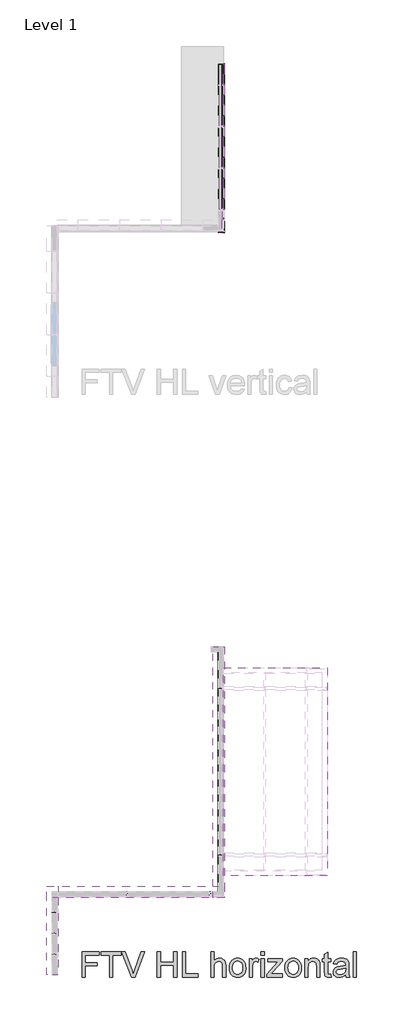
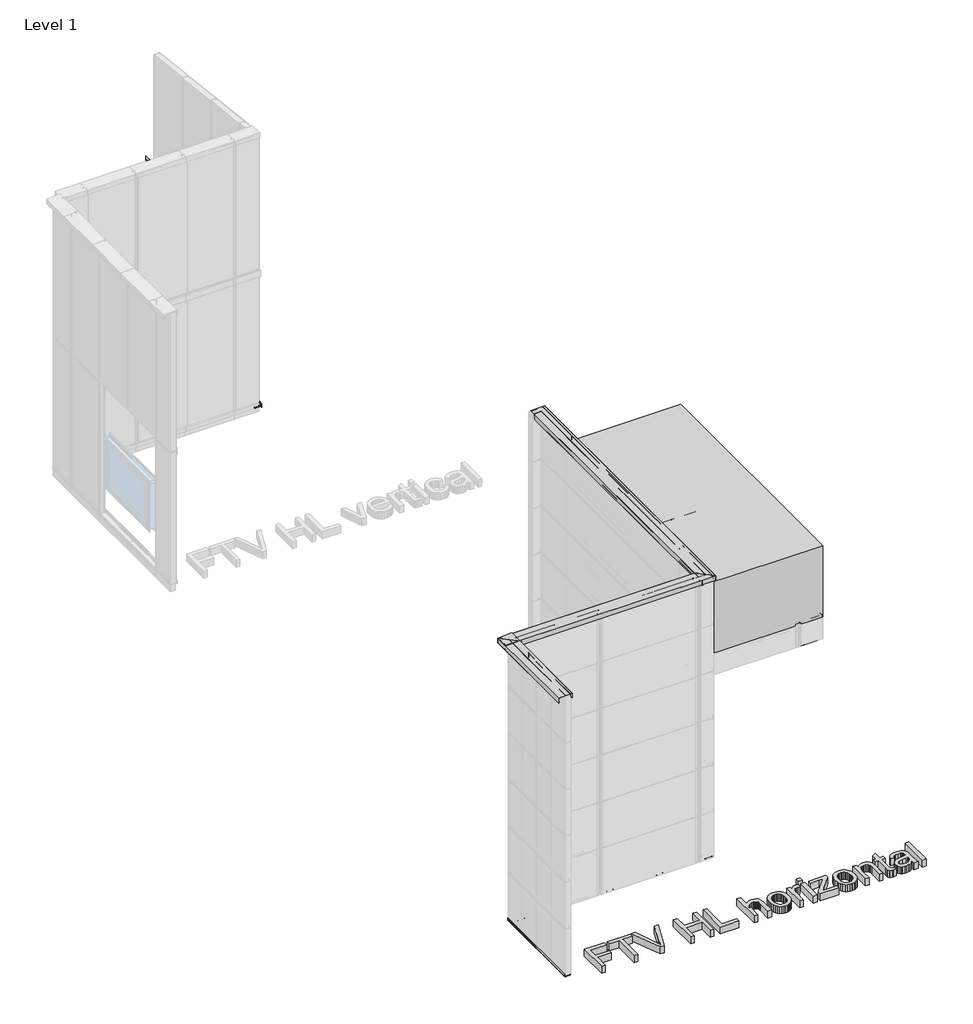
# One storey, part 11 of 12: 7 beams, 4 members, 2 plates, 2 proxies.
"""IFC4 building model written with IfcOpenShell, lengths in millimetres."""

from ifc_helpers import new_model, si_unit, frame, origin, origin_with_axes, place, context, project, spatial, polyline, outline, extrude, faceted_brep, transform, mapped, element, save
from components import base_detail_bd736647, base_detail_667776c5, base_detail_11f6d321, rectangular_mullion_43938598, rectangular_mullion_88eb2caa, tr_empty_empty_82193d3f, tr_empty_empty_37449267

model = new_model("IFC4")

# Units and contexts
model_context = context("Model", 3, world=origin())
ifc_project = project(units=[si_unit("LENGTHUNIT", "METRE", prefix="MILLI")], contexts=[model_context])

# Site, building, storey
site = spatial("IfcSite", under=ifc_project)
building = spatial("IfcBuilding", under=site)
storey = spatial("IfcBuildingStorey", under=building, Name="Level 1", Elevation=0.0)

# Beams
placement = place(None, origin())
element("IfcBeam", 1, ObjectType="TI-V-02_01_Base detail i_BEAM : Base detail", at=placement, inside=storey, context=model_context, shape_type="Brep", body=[
    faceted_brep([(-3975.4614678, 3917.4319119, 194.2952436), (-3992.4617623, 3916.9057806, 198.8199725), (-3992.1511795, 3916.7719023, 199.971326), (-3973.5155057, 3917.3486459, 195.0113313), (-3973.5155057, 3925.864222, 121.7773769), (-3990.5103325, 3923.9013049, 138.6584638), (-3991.0760179, 3923.9666421, 138.0965643), (-3972.7155057, 3926.087297, 119.8589319), (-3972.7155057, 3917.2777443, 195.6210845), (-3992.7168649, 3916.658735, 200.9445645), (-3993.4415582, 3916.9711178, 198.258073), (-3975.668523, 3917.5211641, 193.5276746), (-3975.4614678, 7963.7195842, 664.7938102), (-3975.668523, 7963.8088364, 664.0262412), (-3993.4415582, 7963.2587901, 668.7566396), (-3992.7168649, 7962.9464074, 671.4431311), (-3972.7155057, 7963.5654167, 666.1196511), (-3972.7155057, 7972.3749693, 590.3574985), (-3991.0760179, 7970.2543144, 608.5951308), (-3990.5103325, 7970.1889772, 609.1570303), (-3973.5155057, 7972.1518943, 592.2759434), (-3973.5155057, 7963.6363182, 665.5098978), (-3992.1511795, 7963.0595746, 670.4698926), (-3992.4617623, 7963.1934529, 669.3185391)], [[[0, 1, 2, 3, 4, 5, 6, 7, 8, 9, 10, 11]], [[12, 13, 14, 15, 16, 17, 18, 19, 20, 21, 22, 23]], [[1, 0, 12, 23]], [[2, 1, 23, 22]], [[3, 2, 22, 21]], [[4, 3, 21, 20]], [[5, 4, 20, 19]], [[6, 5, 19, 18]], [[7, 6, 18, 17]], [[8, 7, 17, 16]], [[9, 8, 16, 15]], [[10, 9, 15, 14]], [[11, 10, 14, 13]], [[0, 11, 13, 12]]]),
    faceted_brep([(-3973.5155057, 3949.0069121, 198.692525), (-3973.5155057, 7963.6363182, 665.5098978), (-3973.5155057, 7972.1518943, 592.2759434), (-3973.5155057, 3949.0069121, 124.4683873), (-3990.5103325, 7970.1889772, 609.1570303), (-3990.5103325, 3966.0017389, 143.5538631), (-3991.0760179, 3966.5674244, 143.0501436), (-3991.0760179, 7970.2543144, 608.5951308), (-3972.7155057, 7972.3749693, 590.3574985), (-3972.7155057, 3948.2069121, 122.4309802), (-3972.7155057, 7963.5654167, 666.1196511), (-3972.7155057, 3948.2069121, 199.2174994), (-3992.7168649, 7962.9464074, 671.4431311), (-3992.7168649, 3968.2082714, 206.9386966), (-3975.4614678, 7963.7195842, 664.7938102), (-3975.668523, 7963.8088364, 664.0262412), (-3993.4415582, 7963.2587901, 668.7566396), (-3992.1511795, 7963.0595746, 670.4698926), (-3992.4617623, 7963.1934529, 669.3185391), (-3975.668523, 3951.1599295, 197.439159), (-3975.4614678, 3950.9528743, 198.19303), (-3993.4415582, 3968.9329647, 204.3001482), (-3992.1511795, 3967.6425859, 205.8865218), (-3992.4617623, 3967.9531688, 204.7557153)], [[[0, 1, 2, 3]], [[3, 2, 4, 5]], [[6, 7, 8, 9]], [[9, 8, 10, 11]], [[11, 10, 12, 13]], [[14, 15, 16, 12, 10, 8, 7, 4, 2, 1, 17, 18]], [[19, 15, 14, 20]], [[21, 16, 15, 19]], [[13, 12, 16, 21]], [[5, 4, 7, 6]], [[22, 17, 1, 0]], [[23, 18, 17, 22]], [[20, 14, 18, 23]], [[20, 23, 22, 0, 3, 5, 6, 9, 11, 13, 21, 19]]]),
    faceted_brep([(-3992.5155057, 7963.3096563, 668.3191906), (-3976.5571648, 7963.8035408, 664.0717838), (-3976.76422, 7963.892793, 663.3042148), (-3991.7155057, 7963.4300752, 667.2835879), (-3991.7155057, 7969.0987083, 618.5333432), (-3974.7155057, 7969.0987083, 618.5333432), (-3974.7155057, 7971.8014284, 595.2899505), (-3975.5155057, 7971.8014284, 595.2899505), (-3975.5155057, 7969.191109, 617.7386973), (-3992.5155057, 7969.191109, 617.7386973), (-3992.5155057, 3917.0219839, 197.820624), (-3992.5155057, 3922.9034367, 147.2401307), (-3975.5155057, 3922.9034367, 147.2401307), (-3975.5155057, 3925.513756, 124.7913839), (-3974.7155057, 3925.513756, 124.7913839), (-3974.7155057, 3922.811036, 148.0347766), (-3991.7155057, 3922.811036, 148.0347766), (-3991.7155057, 3917.1424029, 196.7850213), (-3976.76422, 3917.6051207, 192.8056483), (-3976.5571648, 3917.5158684, 193.5732173)], [[[0, 1, 2, 3, 4, 5, 6, 7, 8, 9]], [[10, 11, 12, 13, 14, 15, 16, 17, 18, 19]], [[1, 0, 10, 19]], [[2, 1, 19, 18]], [[3, 2, 18, 17]], [[4, 3, 17, 16]], [[5, 4, 16, 15]], [[6, 5, 15, 14]], [[7, 6, 14, 13]], [[8, 7, 13, 12]], [[9, 8, 12, 11]], [[0, 9, 11, 10]]]),
    faceted_brep([(-3992.5155057, 7963.3096563, 668.3191906), (-3976.5571648, 7963.8035408, 664.0717838), (-3976.76422, 7963.892793, 663.3042148), (-3991.7155057, 7963.4300752, 667.2835879), (-3991.7155057, 7969.0987083, 618.5333432), (-3974.7155057, 7969.0987083, 618.5333432), (-3974.7155057, 7971.8014284, 595.2899505), (-3975.5155057, 7971.8014284, 595.2899505), (-3975.5155057, 7969.191109, 617.7386973), (-3992.5155057, 7969.191109, 617.7386973), (-3992.5155057, 3968.0069121, 203.7491041), (-3976.5571648, 3952.0485713, 197.5886479), (-3976.76422, 3952.2556265, 196.8347769), (-3991.7155057, 3967.2069121, 202.6064759), (-3991.7155057, 3967.2069121, 153.1970878), (-3974.7155057, 3950.2069121, 151.2203436), (-3974.7155057, 3950.2069121, 127.6626811), (-3975.5155057, 3951.0069121, 127.7557044), (-3975.5155057, 3951.0069121, 150.5079767), (-3992.5155057, 3968.0069121, 152.4847209)], [[[0, 1, 2, 3, 4, 5, 6, 7, 8, 9]], [[1, 0, 10, 11]], [[2, 1, 11, 12]], [[3, 2, 12, 13]], [[4, 3, 13, 14]], [[5, 4, 14, 15]], [[6, 5, 15, 16]], [[7, 6, 16, 17]], [[8, 7, 17, 18]], [[9, 8, 18, 19]], [[0, 9, 19, 10]], [[11, 10, 19, 18, 17, 16, 15, 14, 13, 12]]]),
    faceted_brep([(-3992.6274898, 7969.713442, 613.246633), (-3974.8326629, 7971.7687598, 595.5709002), (-3975.3983484, 7971.8340969, 595.0090007), (-3992.9588606, 7969.8058427, 612.4519871), (-4023.1931752, 7969.8058427, 612.4519871), (-4023.1931752, 7966.340817, 642.2512085), (-4024.3931752, 7966.340817, 642.2512085), (-4024.3931752, 7969.8058427, 612.4519871), (-4113.1470653, 7969.8058427, 612.4519871), (-4115.6275805, 7967.4724741, 632.5189569), (-4114.8335436, 7967.4612133, 632.6157999), (-4112.4392851, 7969.713442, 613.246633), (-4025.1931752, 7969.713442, 613.246633), (-4025.1931752, 7966.2484163, 643.0458544), (-4022.3931752, 7966.2484163, 643.0458544), (-4022.3931752, 7969.713442, 613.246633), (-3992.6274898, 3923.4257697, 142.7480665), (-4022.3931752, 3923.4257697, 142.7480665), (-4022.3931752, 3919.960744, 172.5472879), (-4025.1931752, 3919.960744, 172.5472879), (-4025.1931752, 3923.4257697, 142.7480665), (-4112.4392851, 3923.4257697, 142.7480665), (-4114.8335436, 3921.173541, 162.1172334), (-4115.6275805, 3921.1848018, 162.0203904), (-4113.1470653, 3923.5181704, 141.9534206), (-4024.3931752, 3923.5181704, 141.9534206), (-4024.3931752, 3920.0531446, 171.752642), (-4023.1931752, 3920.0531446, 171.752642), (-4023.1931752, 3923.5181704, 141.9534206), (-3992.9588606, 3923.5181704, 141.9534206), (-3975.3983484, 3925.5464246, 124.5104342), (-3974.8326629, 3925.4810875, 125.0723337)], [[[0, 1, 2, 3, 4, 5, 6, 7, 8, 9, 10, 11, 12, 13, 14, 15]], [[16, 17, 18, 19, 20, 21, 22, 23, 24, 25, 26, 27, 28, 29, 30, 31]], [[1, 0, 16, 31]], [[2, 1, 31, 30]], [[3, 2, 30, 29]], [[4, 3, 29, 28]], [[5, 4, 28, 27]], [[6, 5, 27, 26]], [[7, 6, 26, 25]], [[8, 7, 25, 24]], [[9, 8, 24, 23]], [[10, 9, 23, 22]], [[11, 10, 22, 21]], [[12, 11, 21, 20]], [[13, 12, 20, 19]], [[14, 13, 19, 18]], [[15, 14, 18, 17]], [[0, 15, 17, 16]]]),
    faceted_brep([(-3992.6274898, 7969.713442, 613.246633), (-3974.8326629, 7971.7687598, 595.5709002), (-3975.3983484, 7971.8340969, 595.0090007), (-3992.9588606, 7969.8058427, 612.4519871), (-4023.1931752, 7969.8058427, 612.4519871), (-4023.1931752, 7966.340817, 642.2512085), (-4024.3931752, 7966.340817, 642.2512085), (-4024.3931752, 7969.8058427, 612.4519871), (-4113.1470653, 7969.8058427, 612.4519871), (-4115.6275805, 7967.4724741, 632.5189569), (-4114.8335436, 7967.4612133, 632.6157999), (-4112.4392851, 7969.713442, 613.246633), (-4025.1931752, 7969.713442, 613.246633), (-4025.1931752, 7966.2484163, 643.0458544), (-4022.3931752, 7966.2484163, 643.0458544), (-4022.3931752, 7969.713442, 613.246633), (-3992.6274898, 3968.1188962, 147.9449417), (-3974.8326629, 3950.3240694, 127.9610525), (-3975.3983484, 3950.8897548, 127.457333), (-3992.9588606, 3968.4502671, 147.178083), (-4023.1931752, 3998.6845817, 150.693701), (-4023.1931752, 3998.6845817, 180.8958323), (-4024.3931752, 3999.8845817, 181.0353672), (-4024.3931752, 3999.8845817, 150.8332358), (-4113.1470653, 4088.6384718, 161.1534556), (-4115.6275805, 4091.118987, 181.7801794), (-4114.8335436, 4090.3249501, 181.7860019), (-4112.4392851, 4087.9306916, 161.8765458), (-4025.1931752, 4000.6845817, 151.7316493), (-4025.1931752, 4000.6845817, 181.9337806), (-4022.3931752, 3997.8845817, 181.6081992), (-4022.3931752, 3997.8845817, 151.4060679)], [[[0, 1, 2, 3, 4, 5, 6, 7, 8, 9, 10, 11, 12, 13, 14, 15]], [[1, 0, 16, 17]], [[2, 1, 17, 18]], [[3, 2, 18, 19]], [[4, 3, 19, 20]], [[5, 4, 20, 21]], [[6, 5, 21, 22]], [[7, 6, 22, 23]], [[8, 7, 23, 24]], [[9, 8, 24, 25]], [[10, 9, 25, 26]], [[11, 10, 26, 27]], [[12, 11, 27, 28]], [[13, 12, 28, 29]], [[14, 13, 29, 30]], [[15, 14, 30, 31]], [[0, 15, 31, 16]], [[17, 16, 31, 30, 29, 28, 27, 26, 25, 24, 23, 22, 21, 20, 19, 18]]]),
])
base_detail_shape = base_detail_bd736647(model_context)
element("IfcBeam", 2, ObjectType="TI-H-AI1_1_Base detail_BEAM : Base detail", at=placement, inside=storey, context=model_context, shape_type="MappedRepresentation", body=[
    mapped(base_detail_shape, transform((-3994.1155057, -9030.3930879, 150.0), x_axis=(0.0, -1.0, 0.0), y_axis=(1.0, 0.0, 0.0), z_axis=(0.0, 0.0, 1.0))),
])
base_detail_2_shape = base_detail_667776c5(model_context)
element("IfcBeam", 3, ObjectType="TI-H-AI1_1_Base detail_BEAM : Base detail", at=placement, inside=storey, context=model_context, shape_type="MappedRepresentation", body=[
    mapped(base_detail_2_shape, transform((-5989.1155057, -12030.3930879, 150.0), x_axis=(-1.0, 0.0, 0.0), y_axis=(0.0, -1.0, 0.0), z_axis=(0.0, 0.0, 1.0))),
])
base_detail_3_shape = base_detail_11f6d321(model_context)
element("IfcBeam", 4, ObjectType="TI-H-AI1_1_Base detail_BEAM : Base detail", at=placement, inside=storey, context=model_context, shape_type="MappedRepresentation", body=[
    mapped(base_detail_3_shape, transform((-7984.1155057, -12970.7930879, 150.0), x_axis=(0.0, -1.0, 0.0), y_axis=(1.0, 0.0, 0.0), z_axis=(0.0, 0.0, 1.0))),
])
element("IfcBeam", 5, ObjectType="TE-H-03_02_Top parapet_BEAM : Top parapet", at=placement, inside=storey, context=model_context, shape_type="Brep", body=[
    faceted_brep([(-7978.5103325, -11776.9930879, 6102.9605122), (-7961.5155057, -11776.9930879, 6085.9656854), (-7961.5155057, -11776.9930879, 6184.5784879), (-8236.7155057, -11776.9930879, 6170.1558671), (-8236.7155057, -11776.9930879, 6071.5011383), (-8219.7206788, -11776.9930879, 6088.4959652), (-8219.1549934, -11776.9930879, 6087.9302797), (-8237.5155057, -11776.9930879, 6069.5697675), (-8237.5155057, -11776.9930879, 6170.9150387), (-7960.7155057, -11776.9930879, 6185.4215121), (-7960.7155057, -11776.9930879, 6084.0343146), (-7979.0760179, -11776.9930879, 6102.3948268), (-7978.5103325, -13911.1930879, 6102.9605122), (-7979.0760179, -13911.1930879, 6102.3948268), (-7960.7155057, -13911.1930879, 6084.0343146), (-7960.7155057, -13911.1930879, 6185.4215121), (-8237.5155057, -13911.1930879, 6170.9150387), (-8237.5155057, -13911.1930879, 6069.5697675), (-8219.1549934, -13911.1930879, 6087.9302797), (-8219.7206788, -13911.1930879, 6088.4959652), (-8236.7155057, -13911.1930879, 6071.5011383), (-8236.7155057, -13911.1930879, 6170.1558671), (-7961.5155057, -13911.1930879, 6184.5784879), (-7961.5155057, -13911.1930879, 6085.9656854)], [[[0, 1, 2, 3, 4, 5, 6, 7, 8, 9, 10, 11]], [[12, 13, 14, 15, 16, 17, 18, 19, 20, 21, 22, 23]], [[1, 0, 12, 23]], [[2, 1, 23, 22]], [[3, 2, 22, 21]], [[4, 3, 21, 20]], [[5, 4, 20, 19]], [[6, 5, 19, 18]], [[7, 6, 18, 17]], [[8, 7, 17, 16]], [[9, 8, 16, 15]], [[10, 9, 15, 14]], [[11, 10, 14, 13]], [[0, 11, 13, 12]]]),
    faceted_brep([(-7978.5103325, -13911.1930879, 6102.9605122), (-7979.0760179, -13911.1930879, 6102.3948268), (-7960.7155057, -13911.1930879, 6084.0343146), (-7960.7155057, -13911.1930879, 6185.4215121), (-8237.5155057, -13911.1930879, 6170.9150387), (-8237.5155057, -13911.1930879, 6069.5697675), (-8219.1549934, -13911.1930879, 6087.9302797), (-8219.7206788, -13911.1930879, 6088.4959652), (-8236.7155057, -13911.1930879, 6071.5011383), (-8236.7155057, -13911.1930879, 6170.1558671), (-7961.5155057, -13911.1930879, 6184.5784879), (-7961.5155057, -13911.1930879, 6085.9656854), (-7979.0760179, -12035.4325756, 6102.3948268), (-7978.5103325, -12035.9982611, 6102.9605122), (-7960.7155057, -12053.7930879, 6084.0343146), (-7960.7155057, -12053.7930879, 6185.4215121), (-8237.5155057, -11776.9930879, 6170.9150387), (-8237.5155057, -11776.9930879, 6069.5697675), (-8219.1549934, -11795.3536001, 6087.9302797), (-8219.7206788, -11794.7879147, 6088.4959652), (-8236.7155057, -11777.7930879, 6071.5011383), (-8236.7155057, -11777.7930879, 6170.1558671), (-7961.5155057, -12052.9930879, 6184.5784879), (-7961.5155057, -12052.9930879, 6085.9656854)], [[[0, 1, 2, 3, 4, 5, 6, 7, 8, 9, 10, 11]], [[12, 1, 0, 13]], [[14, 2, 1, 12]], [[15, 3, 2, 14]], [[16, 4, 3, 15]], [[17, 5, 4, 16]], [[18, 6, 5, 17]], [[19, 7, 6, 18]], [[20, 8, 7, 19]], [[21, 9, 8, 20]], [[22, 10, 9, 21]], [[23, 11, 10, 22]], [[13, 0, 11, 23]], [[13, 23, 22, 21, 20, 19, 18, 17, 16, 15, 14, 12]]]),
])
element("IfcBeam", 6, ObjectType="TE-H-03_02_Top parapet_BEAM : Top parapet", at=placement, inside=storey, context=model_context, shape_type="Brep", body=[
    faceted_brep([(-3988.5103325, -6030.3930879, 6102.9605122), (-3971.5155057, -6030.3930879, 6085.9656854), (-3971.5155057, -6030.3930879, 6184.5784879), (-4246.7155057, -6030.3930879, 6170.1558671), (-4246.7155057, -6030.3930879, 6071.5011383), (-4229.7206788, -6030.3930879, 6088.4959652), (-4229.1549934, -6030.3930879, 6087.9302797), (-4247.5155057, -6030.3930879, 6069.5697675), (-4247.5155057, -6030.3930879, 6170.9150387), (-3970.7155057, -6030.3930879, 6185.4215121), (-3970.7155057, -6030.3930879, 6084.0343146), (-3989.0760179, -6030.3930879, 6102.3948268), (-3988.5103325, -12053.3930879, 6102.9605122), (-3989.0760179, -12053.3930879, 6102.3948268), (-3970.7155057, -12053.3930879, 6084.0343146), (-3970.7155057, -12053.3930879, 6185.4215121), (-4247.5155057, -12053.3930879, 6170.9150387), (-4247.5155057, -12053.3930879, 6069.5697675), (-4229.1549934, -12053.3930879, 6087.9302797), (-4229.7206788, -12053.3930879, 6088.4959652), (-4246.7155057, -12053.3930879, 6071.5011383), (-4246.7155057, -12053.3930879, 6170.1558671), (-3971.5155057, -12053.3930879, 6184.5784879), (-3971.5155057, -12053.3930879, 6085.9656854)], [[[0, 1, 2, 3, 4, 5, 6, 7, 8, 9, 10, 11]], [[12, 13, 14, 15, 16, 17, 18, 19, 20, 21, 22, 23]], [[1, 0, 12, 23]], [[2, 1, 23, 22]], [[3, 2, 22, 21]], [[4, 3, 21, 20]], [[5, 4, 20, 19]], [[6, 5, 19, 18]], [[7, 6, 18, 17]], [[8, 7, 17, 16]], [[9, 8, 16, 15]], [[10, 9, 15, 14]], [[11, 10, 14, 13]], [[0, 11, 13, 12]]]),
    faceted_brep([(-3988.5103325, -6030.3930879, 6102.9605122), (-3971.5155057, -6030.3930879, 6085.9656854), (-3971.5155057, -6030.3930879, 6184.5784879), (-4246.7155057, -6030.3930879, 6170.1558671), (-4246.7155057, -6030.3930879, 6071.5011383), (-4229.7206788, -6030.3930879, 6088.4959652), (-4229.1549934, -6030.3930879, 6087.9302797), (-4247.5155057, -6030.3930879, 6069.5697675), (-4247.5155057, -6030.3930879, 6170.9150387), (-3970.7155057, -6030.3930879, 6185.4215121), (-3970.7155057, -6030.3930879, 6084.0343146), (-3989.0760179, -6030.3930879, 6102.3948268), (-3988.5103325, -12035.9982611, 6102.9605122), (-3971.5155057, -12052.9930879, 6085.9656854), (-3971.5155057, -12052.9930879, 6184.5784879), (-4246.7155057, -11777.7930879, 6170.1558671), (-4246.7155057, -11777.7930879, 6071.5011383), (-4229.7206788, -11794.7879147, 6088.4959652), (-4229.1549934, -11795.3536001, 6087.9302797), (-4247.5155057, -11776.9930879, 6069.5697675), (-4247.5155057, -11776.9930879, 6170.9150387), (-3971.1155057, -12053.3930879, 6185.4005489), (-3970.7155057, -12053.3930879, 6185.4215121), (-3970.7155057, -12053.3930879, 6084.0343146), (-3971.1155057, -12053.3930879, 6084.4343146), (-3989.0760179, -12035.4325756, 6102.3948268)], [[[0, 1, 2, 3, 4, 5, 6, 7, 8, 9, 10, 11]], [[1, 0, 12, 13]], [[2, 1, 13, 14]], [[3, 2, 14, 15]], [[4, 3, 15, 16]], [[5, 4, 16, 17]], [[6, 5, 17, 18]], [[7, 6, 18, 19]], [[8, 7, 19, 20]], [[9, 8, 20, 21, 22]], [[10, 9, 22, 23]], [[11, 10, 23, 24, 25]], [[0, 11, 25, 12]], [[24, 23, 22, 21]], [[24, 21, 20, 19, 18, 17, 16, 15, 14, 13, 12, 25]]]),
])
element("IfcBeam", 7, ObjectType="TE-H-03_02_Top parapet_BEAM : Top parapet", at=placement, inside=storey, context=model_context, shape_type="Brep", body=[
    faceted_brep([(-3970.7155057, -12035.9982611, 6102.9605122), (-3970.7155057, -12052.9930879, 6085.9656854), (-3970.7155057, -12052.9930879, 6184.5784879), (-3970.7155057, -11777.7930879, 6170.1558671), (-3970.7155057, -11777.7930879, 6071.5011383), (-3970.7155057, -11794.7879147, 6088.4959652), (-3970.7155057, -11795.3536001, 6087.9302797), (-3970.7155057, -11776.9930879, 6069.5697675), (-3970.7155057, -11776.9930879, 6170.9150387), (-3970.7155057, -12053.7930879, 6185.4215121), (-3970.7155057, -12053.7930879, 6084.0343146), (-3970.7155057, -12035.4325756, 6102.3948268), (-8237.5155057, -12035.9982611, 6102.9605122), (-8237.5155057, -12035.4325756, 6102.3948268), (-8237.5155057, -12053.7930879, 6084.0343146), (-8237.5155057, -12053.7930879, 6185.4215121), (-8237.5155057, -11776.9930879, 6170.9150387), (-8237.5155057, -11776.9930879, 6069.5697675), (-8237.5155057, -11795.3536001, 6087.9302797), (-8237.5155057, -11794.7879147, 6088.4959652), (-8237.5155057, -11777.7930879, 6071.5011383), (-8237.5155057, -11777.7930879, 6170.1558671), (-8237.5155057, -12052.9930879, 6184.5784879), (-8237.5155057, -12052.9930879, 6085.9656854)], [[[0, 1, 2, 3, 4, 5, 6, 7, 8, 9, 10, 11]], [[12, 13, 14, 15, 16, 17, 18, 19, 20, 21, 22, 23]], [[1, 0, 12, 23]], [[2, 1, 23, 22]], [[3, 2, 22, 21]], [[4, 3, 21, 20]], [[5, 4, 20, 19]], [[6, 5, 19, 18]], [[7, 6, 18, 17]], [[8, 7, 17, 16]], [[9, 8, 16, 15]], [[10, 9, 15, 14]], [[11, 10, 14, 13]], [[0, 11, 13, 12]]]),
    faceted_brep([(-3970.7155057, -12035.9982611, 6102.9605122), (-3970.7155057, -12052.9930879, 6085.9656854), (-3970.7155057, -12052.9930879, 6184.5784879), (-3970.7155057, -11777.7930879, 6170.1558671), (-3970.7155057, -11777.7930879, 6071.5011383), (-3970.7155057, -11794.7879147, 6088.4959652), (-3970.7155057, -11795.3536001, 6087.9302797), (-3970.7155057, -11776.9930879, 6069.5697675), (-3970.7155057, -11776.9930879, 6170.9150387), (-3970.7155057, -12053.7930879, 6185.4215121), (-3970.7155057, -12053.7930879, 6084.0343146), (-3970.7155057, -12035.4325756, 6102.3948268), (-7978.5103325, -12035.9982611, 6102.9605122), (-7961.5155057, -12052.9930879, 6085.9656854), (-7961.5155057, -12052.9930879, 6184.5784879), (-8236.7155057, -11777.7930879, 6170.1558671), (-8236.7155057, -11777.7930879, 6071.5011383), (-8219.7206788, -11794.7879147, 6088.4959652), (-8219.1549934, -11795.3536001, 6087.9302797), (-8237.5155057, -11776.9930879, 6069.5697675), (-8237.5155057, -11776.9930879, 6170.9150387), (-7960.7155057, -12053.7930879, 6185.4215121), (-7960.7155057, -12053.7930879, 6084.0343146), (-7979.0760179, -12035.4325756, 6102.3948268)], [[[0, 1, 2, 3, 4, 5, 6, 7, 8, 9, 10, 11]], [[1, 0, 12, 13]], [[2, 1, 13, 14]], [[3, 2, 14, 15]], [[4, 3, 15, 16]], [[5, 4, 16, 17]], [[6, 5, 17, 18]], [[7, 6, 18, 19]], [[8, 7, 19, 20]], [[9, 8, 20, 21]], [[10, 9, 21, 22]], [[11, 10, 22, 23]], [[0, 11, 23, 12]], [[13, 12, 23, 22, 21, 20, 19, 18, 17, 16, 15, 14]]]),
    faceted_brep([(-3988.5103325, -12035.9982611, 6102.9605122), (-7978.5103325, -12035.9982611, 6102.9605122), (-7961.5155057, -12052.9930879, 6085.9656854), (-3971.5155057, -12052.9930879, 6085.9656854), (-3989.0760179, -12035.4325756, 6102.3948268), (-7979.0760179, -12035.4325756, 6102.3948268), (-7961.5155057, -12052.9930879, 6184.5784879), (-3971.5155057, -12052.9930879, 6184.5784879), (-8236.7155057, -11777.7930879, 6170.1558671), (-4246.7155057, -11777.7930879, 6170.1558671), (-8236.7155057, -11777.7930879, 6071.5011383), (-4246.7155057, -11777.7930879, 6071.5011383), (-8219.7206788, -11794.7879147, 6088.4959652), (-4229.7206788, -11794.7879147, 6088.4959652), (-8219.1549934, -11795.3536001, 6087.9302797), (-4229.1549934, -11795.3536001, 6087.9302797), (-8237.5155057, -11776.9930879, 6069.5697675), (-4247.5155057, -11776.9930879, 6069.5697675), (-8237.5155057, -11776.9930879, 6170.9150387), (-4247.5155057, -11776.9930879, 6170.9150387), (-7960.7155057, -12053.7930879, 6185.4215121), (-3970.7155057, -12053.7930879, 6185.4215121), (-7960.7155057, -12053.7930879, 6084.0343146), (-3970.7155057, -12053.7930879, 6084.0343146)], [[[0, 1, 2, 3]], [[4, 5, 1, 0]], [[3, 2, 6, 7]], [[7, 6, 8, 9]], [[9, 8, 10, 11]], [[11, 10, 12, 13]], [[13, 12, 14, 15]], [[15, 14, 16, 17]], [[17, 16, 18, 19]], [[19, 18, 20, 21]], [[21, 20, 22, 23]], [[23, 22, 5, 4]], [[2, 1, 5, 22, 20, 18, 16, 14, 12, 10, 8, 6]], [[0, 3, 7, 9, 11, 13, 15, 17, 19, 21, 23, 4]]]),
])

# Proxies
element("IfcBuildingElementProxy", 8, Name="600mm Arial", ObjectType="600mm Arial", at=placement, inside=storey, context=model_context, shape_type="SweptSolid", body=[
    extrude(outline(polyline([(-7390.6707281, -13959.8952349), (-7390.6707281, -13357.157374), (-6985.7062278, -13357.157374), (-6985.7062278, -13432.4996066), (-7315.3284955, -13432.4996066), (-7315.3284955, -13611.437409), (-7032.7951232, -13611.437409), (-7032.7951232, -13686.7796417), (-7315.3284955, -13686.7796417), (-7315.3284955, -13959.8952349), (-7390.6707281, -13959.8952349)])), origin_with_axes(), (0.0, 0.0, 1.0), 150.0),
    extrude(outline(polyline([(-6731.4261928, -13959.8952349), (-6731.4261928, -13432.4996066), (-6929.1995534, -13432.4996066), (-6929.1995534, -13357.157374), (-6458.3105995, -13357.157374), (-6458.3105995, -13432.4996066), (-6656.0839602, -13432.4996066), (-6656.0839602, -13959.8952349), (-6731.4261928, -13959.8952349)])), origin_with_axes(), (0.0, 0.0, 1.0), 150.0),
    extrude(outline(polyline([(-6195.4957022, -13959.8952349), (-6435.354763, -13357.157374), (-6354.7150297, -13357.157374), (-6194.171327, -13791.4052811), (-6161.6505586, -13889.2618918), (-6129.5712487, -13791.4052811), (-5968.5860876, -13357.157374), (-5887.9463542, -13357.157374), (-6117.651872, -13959.8952349), (-6195.4957022, -13959.8952349)])), origin_with_axes(), (0.0, 0.0, 1.0), 150.0),
    extrude(outline(polyline([(-5582.4571454, -13959.8952349), (-5582.4571454, -13357.157374), (-5507.1149128, -13357.157374), (-5507.1149128, -13602.01963), (-5186.9104242, -13602.01963), (-5186.9104242, -13357.157374), (-5111.5681916, -13357.157374), (-5111.5681916, -13959.8952349), (-5186.9104242, -13959.8952349), (-5186.9104242, -13677.3618626), (-5507.1149128, -13677.3618626), (-5507.1149128, -13959.8952349), (-5582.4571454, -13959.8952349)])), origin_with_axes(), (0.0, 0.0, 1.0), 150.0),
    extrude(outline(polyline([(-4979.7192845, -13959.8952349), (-4979.7192845, -13357.157374), (-4904.3770519, -13357.157374), (-4904.3770519, -13884.5530023), (-4603.0081215, -13884.5530023), (-4603.0081215, -13959.8952349), (-4979.7192845, -13959.8952349)])), origin_with_axes(), (0.0, 0.0, 1.0), 150.0),
    extrude(outline(polyline([(-4292.2214119, -13959.8952349), (-4292.2214119, -13357.157374), (-4216.8791793, -13357.157374), (-4216.8791793, -13578.7694879), (-4189.2052562, -13547.7386416), (-4158.1284247, -13525.5737514), (-4123.6486847, -13512.2748172), (-4085.7660362, -13507.8418392), (-4040.2590334, -13512.6794874), (-4001.1531774, -13527.1924322), (-3970.3614544, -13550.2402392), (-3949.7968508, -13580.6824743), (-3938.208568, -13622.5106571), (-3934.345807, -13679.7163074), (-3934.345807, -13959.8952349), (-4009.6880396, -13959.8952349), (-4009.6880396, -13687.5154057), (-4011.1871588, -13662.0763657), (-4015.6845162, -13640.3529339), (-4023.1801118, -13622.3451102), (-4033.6739457, -13608.0528947), (-4046.9176976, -13597.1727847), (-4062.663047, -13589.4012775), (-4080.9099939, -13584.7383732), (-4101.6585384, -13583.1840718), (-4133.4987251, -13587.3779266), (-4163.3891372, -13599.9594908), (-4188.1475955, -13619.7147539), (-4204.5919207, -13645.4297054), (-4213.8073647, -13679.6059428), (-4216.8791793, -13724.7450636), (-4216.8791793, -13959.8952349), (-4292.2214119, -13959.8952349)])), origin_with_axes(), (0.0, 0.0, 1.0), 150.0),
    extrude(outline(polyline([(-3849.5857953, -13738.5774266), (-3845.5115022, -13681.2522147), (-3833.288623, -13631.8548598), (-3812.9171575, -13590.3853619), (-3784.3971058, -13556.843721), (-3755.6839161, -13535.4053977), (-3723.9908822, -13520.0923096), (-3689.3180041, -13510.9044568), (-3651.6652819, -13507.8418392), (-3610.099215, -13511.5712429), (-3572.5154707, -13522.7594541), (-3538.9140489, -13541.4064727), (-3509.2949498, -13567.5122988), (-3485.1205042, -13600.1940156), (-3467.8530431, -13638.5687062), (-3457.4925664, -13682.6363707), (-3454.0390741, -13732.3970091), (-3455.5657844, -13772.7260728), (-3460.1459153, -13808.5117939), (-3467.7794667, -13839.7541723), (-3478.4664386, -13866.4532081), (-3492.0734739, -13889.5148107), (-3508.4672153, -13909.8448894), (-3527.6476628, -13927.4434444), (-3549.6148165, -13942.3104755), (-3573.5133506, -13954.1240861), (-3598.4879395, -13962.5623793), (-3624.5385833, -13967.6253553), (-3651.6652819, -13969.313014), (-3693.8383542, -13965.5974058), (-3731.7715864, -13954.4505814), (-3765.4649786, -13935.8725406), (-3794.9185309, -13909.8632835), (-3818.8354591, -13876.8642686), (-3835.9189792, -13837.3169541), (-3846.1690913, -13791.2213401), (-3849.5857953, -13738.5774266)]), holes=[polyline([(-3774.2435627, -13738.4302738), (-3772.0638619, -13774.9747515), (-3765.5247594, -13806.6172016), (-3754.6262553, -13833.3576241), (-3739.3683496, -13855.1960191), (-3720.8087029, -13872.1599776), (-3700.0049761, -13884.2770908), (-3676.9571691, -13891.5473587), (-3651.6652819, -13893.9707813), (-3626.5021535, -13891.5335631), (-3603.546317, -13884.2219085), (-3582.7977724, -13872.0358174), (-3564.2565199, -13854.9752899), (-3548.9986141, -13832.9207642), (-3538.10011, -13805.7526789), (-3531.5610076, -13773.4710338), (-3529.3813067, -13736.075829), (-3531.5748031, -13700.6901796), (-3538.1552923, -13669.875464), (-3549.1227743, -13643.6316822), (-3564.4772491, -13621.9588341), (-3583.0874795, -13604.9948756), (-3603.8222285, -13592.8777624), (-3626.6814959, -13585.6074945), (-3651.6652819, -13583.1840718), (-3676.9571691, -13585.5982974), (-3700.0049761, -13592.8409742), (-3720.8087029, -13604.9121022), (-3739.3683496, -13621.8116813), (-3754.6262553, -13643.5856969), (-3765.5247594, -13670.2801342), (-3772.0638619, -13701.8949931), (-3774.2435627, -13738.4302738)])]), origin_with_axes(), (0.0, 0.0, 1.0), 150.0),
    extrude(outline(polyline([(-3369.2790624, -13959.8952349), (-3369.2790624, -13517.2596183), (-3303.3546089, -13517.2596183), (-3303.3546089, -13582.7426134), (-3279.0008208, -13544.7771915), (-3256.5600191, -13522.4099662), (-3234.045641, -13511.483871), (-3209.4711237, -13507.8418392), (-3171.9471602, -13513.6543747), (-3133.8345855, -13531.0919813), (-3158.997714, -13598.6351156), (-3185.4852177, -13587.0468328), (-3211.9727213, -13583.1840718), (-3234.4687053, -13586.89968), (-3254.5734563, -13598.0465044), (-3270.8154464, -13615.7784166), (-3281.7231476, -13639.2492879), (-3290.8834093, -13681.3349881), (-3293.9368298, -13727.2466611), (-3293.9368298, -13959.8952349), (-3369.2790624, -13959.8952349)])), origin_with_axes(), (0.0, 0.0, 1.0), 150.0),
    extrude(outline(polyline([(-3086.7456901, -13432.4996066), (-3086.7456901, -13357.157374), (-3011.4034575, -13357.157374), (-3011.4034575, -13432.4996066), (-3086.7456901, -13432.4996066)])), origin_with_axes(), (0.0, 0.0, 1.0), 150.0),
    extrude(outline(polyline([(-3086.7456901, -13959.8952349), (-3086.7456901, -13517.2596183), (-3011.4034575, -13517.2596183), (-3011.4034575, -13959.8952349), (-3086.7456901, -13959.8952349)])), origin_with_axes(), (0.0, 0.0, 1.0), 150.0),
    extrude(outline(polyline([(-2945.479004, -13959.8952349), (-2945.479004, -13888.9675862), (-2685.4600098, -13592.6018509), (-2762.4209232, -13592.6018509), (-2926.6434458, -13592.6018509), (-2926.6434458, -13517.2596183), (-2578.18562, -13517.2596183), (-2578.18562, -13581.2710854), (-2808.7740546, -13844.2331356), (-2844.0907261, -13884.5530023), (-2756.9762697, -13884.5530023), (-2568.7678409, -13884.5530023), (-2568.7678409, -13959.8952349), (-2945.479004, -13959.8952349)])), origin_with_axes(), (0.0, 0.0, 1.0), 150.0),
    extrude(outline(polyline([(-2512.2611665, -13738.5774266), (-2508.1868734, -13681.2522147), (-2495.9639941, -13631.8548598), (-2475.5925286, -13590.3853619), (-2447.0724769, -13556.843721), (-2418.3592872, -13535.4053977), (-2386.6662533, -13520.0923096), (-2351.9933753, -13510.9044568), (-2314.3406531, -13507.8418392), (-2272.7745861, -13511.5712429), (-2235.1908418, -13522.7594541), (-2201.5894201, -13541.4064727), (-2171.9703209, -13567.5122988), (-2147.7958753, -13600.1940156), (-2130.5284142, -13638.5687062), (-2120.1679375, -13682.6363707), (-2116.7144453, -13732.3970091), (-2118.2411555, -13772.7260728), (-2122.8212864, -13808.5117939), (-2130.4548378, -13839.7541723), (-2141.1418097, -13866.4532081), (-2154.748845, -13889.5148107), (-2171.1425865, -13909.8448894), (-2190.323034, -13927.4434444), (-2212.2901876, -13942.3104755), (-2236.1887217, -13954.1240861), (-2261.1633107, -13962.5623793), (-2287.2139545, -13967.6253553), (-2314.3406531, -13969.313014), (-2356.5137253, -13965.5974058), (-2394.4469575, -13954.4505814), (-2428.1403498, -13935.8725406), (-2457.593902, -13909.8632835), (-2481.5108302, -13876.8642686), (-2498.5943504, -13837.3169541), (-2508.8444624, -13791.2213401), (-2512.2611665, -13738.5774266)]), holes=[polyline([(-2436.9189339, -13738.4302738), (-2434.739233, -13774.9747515), (-2428.2001306, -13806.6172016), (-2417.3016265, -13833.3576241), (-2402.0437207, -13855.1960191), (-2383.4840741, -13872.1599776), (-2362.6803472, -13884.2770908), (-2339.6325402, -13891.5473587), (-2314.3406531, -13893.9707813), (-2289.1775246, -13891.5335631), (-2266.2216881, -13884.2219085), (-2245.4731436, -13872.0358174), (-2226.931891, -13854.9752899), (-2211.6739853, -13832.9207642), (-2200.7754812, -13805.7526789), (-2194.2363787, -13773.4710338), (-2192.0566779, -13736.075829), (-2194.2501743, -13700.6901796), (-2200.8306635, -13669.875464), (-2211.7981454, -13643.6316822), (-2227.1526202, -13621.9588341), (-2245.7628506, -13604.9948756), (-2266.4975996, -13592.8777624), (-2289.3568671, -13585.6074945), (-2314.3406531, -13583.1840718), (-2339.6325402, -13585.5982974), (-2362.6803472, -13592.8409742), (-2383.4840741, -13604.9121022), (-2402.0437207, -13621.8116813), (-2417.3016265, -13643.5856969), (-2428.2001306, -13670.2801342), (-2434.739233, -13701.8949931), (-2436.9189339, -13738.4302738)])]), origin_with_axes(), (0.0, 0.0, 1.0), 150.0),
    extrude(outline(polyline([(-2031.9544336, -13959.8952349), (-2031.9544336, -13517.2596183), (-1956.612201, -13517.2596183), (-1956.612201, -13579.0637935), (-1930.437397, -13547.9041885), (-1899.0018805, -13525.6473278), (-1862.3056515, -13512.2932113), (-1820.34871, -13507.8418392), (-1783.2110225, -13511.4286887), (-1749.2003321, -13522.189237), (-1720.8366303, -13538.780715), (-1700.6399087, -13559.8603533), (-1686.9363044, -13585.3729697), (-1678.0519542, -13615.2633818), (-1674.0788287, -13688.1040168), (-1674.0788287, -13959.8952349), (-1749.4210613, -13959.8952349), (-1749.4210613, -13698.2575599), (-1751.5915651, -13659.2988566), (-1758.1030764, -13631.5973424), (-1770.1144235, -13611.7501087), (-1788.7844348, -13596.3542472), (-1812.7151586, -13586.4766157), (-1840.5086433, -13583.1840718), (-1863.3863049, -13585.0326788), (-1884.6360886, -13590.5784999), (-1904.2579945, -13599.8215351), (-1922.2520226, -13612.7617842), (-1937.2846006, -13630.8707754), (-1948.0221564, -13655.6200367), (-1954.4646898, -13687.0095679), (-1956.612201, -13725.0393692), (-1956.612201, -13959.8952349), (-2031.9544336, -13959.8952349)])), origin_with_axes(), (0.0, 0.0, 1.0), 150.0),
    extrude(outline(polyline([(-1410.3810145, -13897.0609901), (-1400.9632354, -13962.1025269), (-1457.3227571, -13969.313014), (-1493.4855572, -13966.186017), (-1520.4513075, -13956.8050261), (-1539.5075948, -13942.3472637), (-1551.9420063, -13923.9899522), (-1558.7846114, -13892.4624652), (-1561.0654798, -13838.4941765), (-1561.0654798, -13592.6018509), (-1617.5721542, -13592.6018509), (-1617.5721542, -13517.2596183), (-1561.0654798, -13517.2596183), (-1561.0654798, -13409.6909229), (-1485.7232471, -13365.3979307), (-1485.7232471, -13517.2596183), (-1410.3810145, -13517.2596183), (-1410.3810145, -13592.6018509), (-1485.7232471, -13592.6018509), (-1485.7232471, -13836.2868845), (-1481.7501216, -13875.1352232), (-1468.8742518, -13888.8940098), (-1458.0033388, -13892.7015885), (-1443.1960885, -13893.9707813), (-1410.3810145, -13897.0609901)])), origin_with_axes(), (0.0, 0.0, 1.0), 150.0),
    extrude(outline(polyline([(-1052.5054096, -13903.3885604), (-1088.5026628, -13934.2538598), (-1125.5667739, -13954.4505814), (-1164.5438712, -13965.5974058), (-1206.2800836, -13969.313014), (-1239.826323, -13967.0781308), (-1269.2430871, -13960.3734815), (-1294.5303757, -13949.1990659), (-1315.688189, -13933.554884), (-1332.3946301, -13914.4342173), (-1344.3278023, -13892.8303472), (-1351.4877056, -13868.7432735), (-1353.8743401, -13842.1729964), (-1350.2690965, -13810.939815), (-1339.4533659, -13782.5761132), (-1322.7699174, -13758.2959015), (-1301.5615204, -13739.3131906), (-1276.6375152, -13724.9657928), (-1248.8072422, -13714.5915205), (-1183.6185527, -13703.260755), (-1106.5840629, -13691.3413784), (-1052.946868, -13677.3618626), (-1052.5054096, -13660.5864436), (-1057.6925457, -13626.9620292), (-1064.1764659, -13614.5092237), (-1073.2539541, -13604.9626859), (-1088.9441212, -13595.4345423), (-1108.0555909, -13588.6287253), (-1156.5424379, -13583.1840718), (-1201.4240413, -13586.8077095), (-1232.7675873, -13597.6786224), (-1254.1415312, -13617.7833735), (-1269.1143284, -13649.1085254), (-1344.456561, -13639.6907463), (-1331.3783561, -13598.4879628), (-1311.8622162, -13566.1143472), (-1284.0871256, -13541.355889), (-1246.2320683, -13522.9985774), (-1199.9341192, -13511.6310238), (-1146.8303532, -13507.8418392), (-1095.8970909, -13511.1895654), (-1055.522042, -13521.2327438), (-1025.0798069, -13536.3342997), (-1003.9449863, -13554.8571582), (-989.9286822, -13577.7578124), (-980.841997, -13605.9927555), (-977.163177, -13671.9172091), (-977.163177, -13765.6535414), (-973.3372043, -13896.5459553), (-967.6718215, -13928.9011768), (-958.3276189, -13959.8952349), (-1033.6698515, -13959.8952349), (-1045.7363809, -13933.7020368), (-1052.5054096, -13903.3885604)]), holes=[polyline([(-1052.5054096, -13752.7040952), (-1103.1259722, -13765.2488712), (-1174.0536208, -13775.8070845), (-1238.8744284, -13788.0207667), (-1255.7418179, -13796.371688), (-1268.2314116, -13807.8863945), (-1275.9569335, -13821.6819693), (-1278.5321075, -13836.8754957), (-1272.921907, -13859.2795092), (-1256.0913057, -13877.6368208), (-1228.4081856, -13889.8872912), (-1190.2404286, -13893.9707813), (-1149.7734091, -13889.4642269), (-1114.0152792, -13875.9445636), (-1085.026178, -13856.0237535), (-1064.8662447, -13832.313759), (-1055.9267122, -13807.8863945), (-1052.946868, -13774.0412509), (-1052.5054096, -13752.7040952)])]), origin_with_axes(), (0.0, 0.0, 1.0), 150.0),
    extrude(outline(polyline([(-873.5676072, -13959.8952349), (-873.5676072, -13357.157374), (-798.2253746, -13357.157374), (-798.2253746, -13959.8952349), (-873.5676072, -13959.8952349)])), origin_with_axes(), (0.0, 0.0, 1.0), 150.0),
])
element("IfcBuildingElementProxy", 9, Name="Mass 6 : Mass 1", ObjectType="Mass 6 : Mass 1", at=placement, inside=storey, context=model_context, shape_type="SweptSolid", body=[
    extrude(outline(polyline([(-1494.1155057, -6530.3930879), (-1494.1155057, -11530.3930879), (-3994.1155057, -11530.3930879), (-3994.1155057, -6530.3930879), (-1494.1155057, -6530.3930879)])), frame((0.0, 0.0, 3650.0), z_axis=(0.0, 0.0, 1.0), x_axis=(1.0, 0.0, 0.0)), (0.0, 0.0, 1.0), 2000.0),
])

# Members
rectangular_mullion_shape = rectangular_mullion_43938598(model_context)
element("IfcMember", 10, ObjectType="Rectangular Mullion : TI-V-01_02_Joint flashing", at=placement, inside=storey, context=model_context, shape_type="MappedRepresentation", body=[
    mapped(rectangular_mullion_shape, transform((-3994.1155057, 6469.6069118, 3000.0), x_axis=(0.0, 0.0, 1.0), y_axis=(-1.0, 0.0, 0.0), z_axis=(0.0, -1.0, 0.0))),
])
element("IfcMember", 11, ObjectType="Rectangular Mullion : TI-V-01_02_Joint flashing", at=placement, inside=storey, context=model_context, shape_type="MappedRepresentation", body=[
    mapped(rectangular_mullion_shape, transform((-3994.1155057, 5469.6069118, 3000.0), x_axis=(0.0, 0.0, 1.0), y_axis=(-1.0, 0.0, 0.0), z_axis=(0.0, -1.0, 0.0))),
])
element("IfcMember", 12, ObjectType="Rectangular Mullion : TI-V-01_02_Joint flashing", at=placement, inside=storey, context=model_context, shape_type="MappedRepresentation", body=[
    mapped(rectangular_mullion_shape, transform((-3994.1155057, 4469.6069118, 3000.0), x_axis=(0.0, 0.0, 1.0), y_axis=(-1.0, 0.0, 0.0), z_axis=(0.0, -1.0, 0.0))),
])
rectangular_mullion_2_shape = rectangular_mullion_88eb2caa(model_context)
element("IfcMember", 13, ObjectType="Rectangular Mullion : TI-V-01_02_Joint flashing", at=placement, inside=storey, context=model_context, shape_type="MappedRepresentation", body=[
    mapped(rectangular_mullion_2_shape, transform((-3994.1155057, 7469.6069118, 3000.0), x_axis=(0.0, 0.0, 1.0), y_axis=(-1.0, 0.0, 0.0), z_axis=(0.0, -1.0, 0.0))),
])

# Plates
tr_empty_empty_shape = tr_empty_empty_82193d3f(model_context)
element("IfcPlate", 14, ObjectType="TR_EMPTY : EMPTY", at=placement, inside=storey, context=model_context, shape_type="MappedRepresentation", body=[
    mapped(tr_empty_empty_shape, transform((-3994.1155057, 4219.606912, 150.0), x_axis=(0.0, -1.0, 0.0), y_axis=(1.0, 0.0, 0.0), z_axis=(0.0, 0.0, 1.0))),
])
tr_empty_empty_2_shape = tr_empty_empty_37449267(model_context)
element("IfcPlate", 15, ObjectType="TR_EMPTY : EMPTY", at=placement, inside=storey, context=model_context, shape_type="MappedRepresentation", body=[
    mapped(tr_empty_empty_2_shape, transform((-3994.1155057, 4219.606912, 3000.0), x_axis=(0.0, -1.0, 0.0), y_axis=(1.0, 0.0, 0.0), z_axis=(0.0, 0.0, 1.0))),
])

save(model, "model.ifc")
